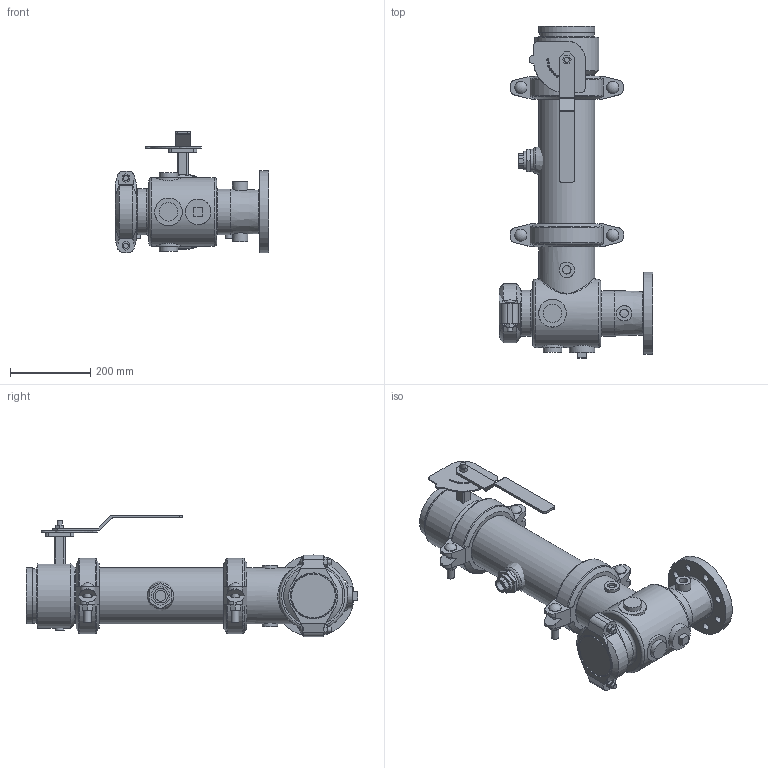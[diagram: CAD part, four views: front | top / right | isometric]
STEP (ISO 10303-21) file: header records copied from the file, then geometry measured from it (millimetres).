
FILE_DESCRIPTION(/* description */ ('VIC SVI PUMP DROP HORZ S/391 (OGSxFLG)','CAx-IF Rec.Pracs.---Representation and Presentation of Product Manufacturing Information (PMI)---4.0---2014-10-13'),/* implementation_level */ '2;1');
FILE_NAME(/* name */ 'C:\Users\kkamble\AppData\Roaming\Autodesk\ApplicationPlugins\Back Up\Victaulic_PN10_Series 391 (OGSxFLG)\Victaulic_PN10_Series 391 (OGSxFLG)_05.0 (139.7)x03.0 (125x80).stp',/* time_stamp */ '2020-11-26T23:43:54+05:00',/* author */ ('kkamble'),/* organization */ ('Victaulic'),/* preprocessor_version */ 'ST-DEVELOPER v17.2',/* originating_system */ 'Autodesk Inventor 2019',/* authorisation */ '');
FILE_SCHEMA (('AP242_MANAGED_MODEL_BASED_3D_ENGINEERING_MIM_LF { 1 0 10303 442 1 1 4 }'));
Length unit declared in the file: inch
Products named in the file (9): 391-05.0 (139.7)x03.0; 731D-05.0 (139.7)x03.0; 731D-05.0 (139.7)x03.0_1; 731D-05.0; 07-04.0; PIPE-05.0 (139.7); 177N-05.0 (139.7); 761-05.0 (139.7); 923-04.0x0.75
Assembly tree (9 placements, depth 3):
  391-05.0 (139.7)x03.0
    731D-05.0 (139.7)x03.0
      731D-05.0 (139.7)x03.0_1
      731D-05.0
      07-04.0
    177N-05.0 (139.7)  x2
    PIPE-05.0 (139.7)
    761-05.0 (139.7)
    923-04.0x0.75
Bounding box: 381 x 824.99 x 302.01 mm (x, y, z)
Volume: 7906574.5 mm3; surface area: 1366951.6 mm2
Topology: 8 solids, 11 shells, 531 faces, 1377 edges, 929 vertices
Faces by surface type: plane 297, cylinder 191, cone 19, torus 17, sphere 6, bspline 1
Full cylindrical faces by diameter (mm): 4.826 x10, 8.636 x4, 12.7 x6, 17.78 x4, 18.009 x8, 20.955 x4, 22.225 x2, 22.86 x1, 26.67 x1, 30.48 x4, 38.1 x4, 45.72 x3, 45.974 x2, 55.118 x1, 55.626 x1, 63.5 x1, 76.2 x1, 84.074 x1, 90.678 x1, 96.52 x1, 107.95 x1, 110.084 x2, 113.03 x1, 114.3 x5, 121.412 x1, 126.594 x1, 127 x2, 128.194 x1, 135.484 x5, 139.7 x13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
Entity records: 15601 total; most frequent: CARTESIAN_POINT 3533, DIRECTION 2481, ORIENTED_EDGE 2274, EDGE_CURVE 1137, AXIS2_PLACEMENT_3D 946, VERTEX_POINT 770, LINE 589, VECTOR 589
